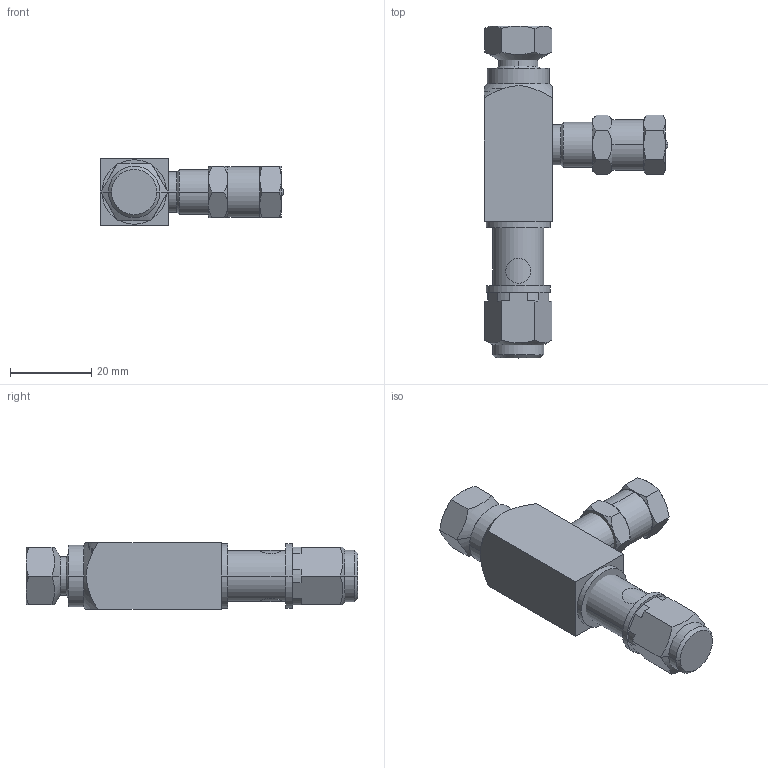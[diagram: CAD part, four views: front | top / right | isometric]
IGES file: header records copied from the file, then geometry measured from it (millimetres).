
Start section:  PTC IGES file: 24f508-en-h.igs
Global section: file name: 24f508-en-h.igs; native system: Creo Parametric by PTC Inc.; preprocessor: 2021072; author: qtmwp1; organization: Unknown; date: 20220214.112504; units: inch
Bounding box: 45.26 x 81.92 x 16.51 mm (x, y, z)
Surface area: 8098.4 mm2 (no closed solid volume)
Topology: 0 solids, 0 shells, 117 faces, 516 edges, 516 vertices
Faces by surface type: revolution 72, bspline 45
